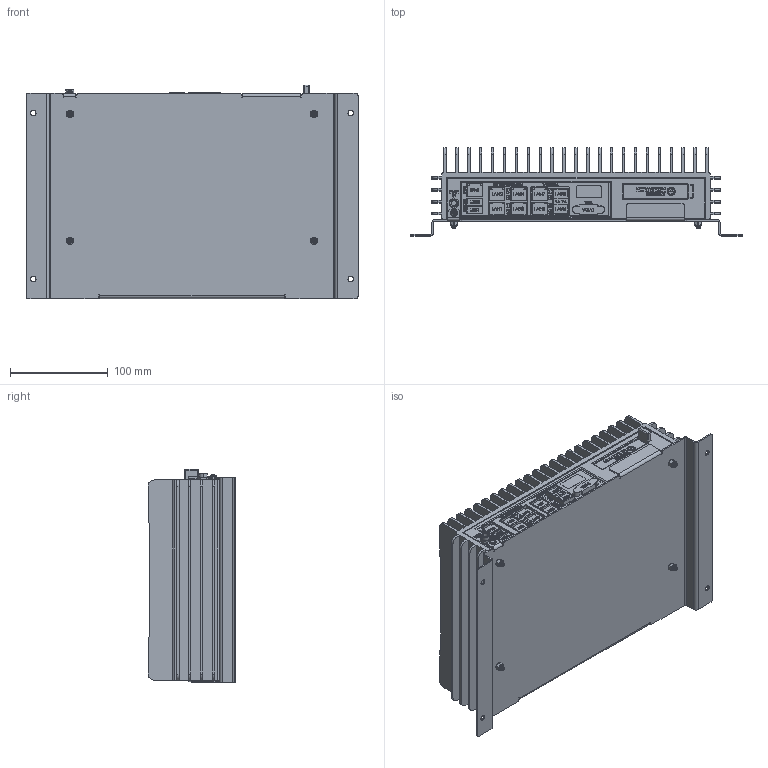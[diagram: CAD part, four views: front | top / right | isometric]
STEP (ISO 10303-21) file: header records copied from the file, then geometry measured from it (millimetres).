
FILE_DESCRIPTION (( 'STEP AP214' ), '1' );
FILE_NAME ('NUVMSC3-xxS-C.STEP', '2022-05-03T22:00:07', ( '' ), ( '' ), 'SwSTEP 2.0', 'SolidWorks 2021', '' );
FILE_SCHEMA (( 'AUTOMOTIVE_DESIGN' ));
Length unit declared in the file: inch
Products named in the file (1): NUVMSC3-xxS-C
Bounding box: 340 x 89.8 x 218.75 mm (x, y, z)
Volume: 3159033.8 mm3; surface area: 495891 mm2
Topology: 1 solids, 6 shells, 3847 faces, 10256 edges, 6463 vertices
Faces by surface type: plane 1986, bspline 1082, cylinder 467, torus 160, cone 133, sphere 19
Entity records: 216184 total; most frequent: CARTESIAN_POINT 79169, ORIENTED_EDGE 20180, DIRECTION 14636, EDGE_CURVE 10090, VERTEX_POINT 6463, LINE 5944, VECTOR 5944, AXIS2_PLACEMENT_3D 4346
